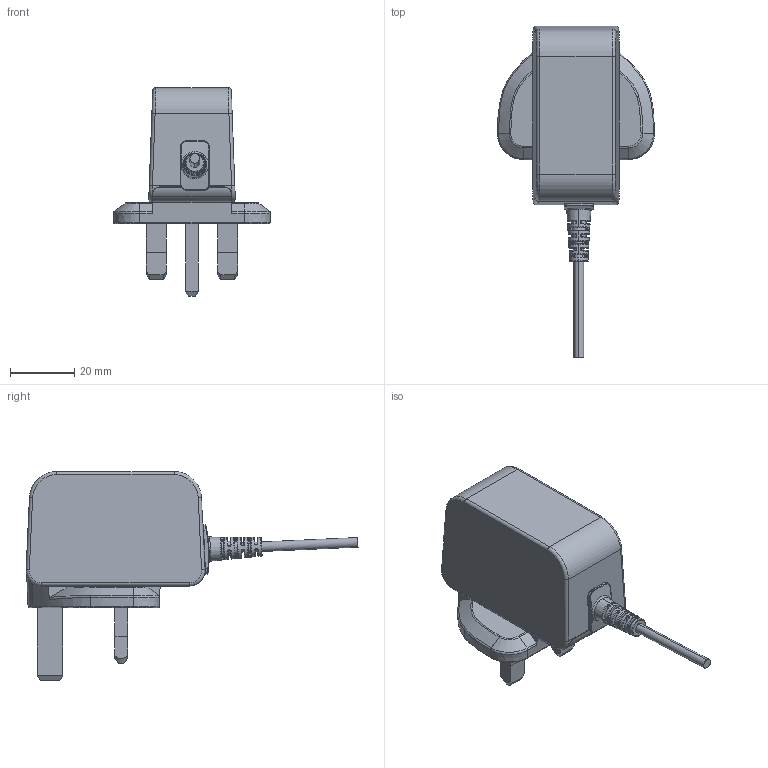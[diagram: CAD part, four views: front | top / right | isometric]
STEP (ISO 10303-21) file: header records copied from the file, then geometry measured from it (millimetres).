
FILE_DESCRIPTION (( 'STEP AP214' ), '1' );
FILE_NAME ('ASSA13B-120150_PR3PXUK3_NOPB.STEP', '2023-04-27T07:29:49', ( '' ), ( '' ), 'SwSTEP 2.0', 'SolidWorks 2022', '' );
FILE_SCHEMA (( 'AUTOMOTIVE_DESIGN' ));
Length unit declared in the file: millimetre
Products named in the file (1): ASSA13B-120150_PR3PXUK3_NOPB
Bounding box: 48.98 x 103.49 x 65.13 mm (x, y, z)
Surface area: 24236.4 mm2 (no closed solid volume)
Topology: 0 solids, 8 shells, 1498 faces, 4237 edges, 2748 vertices
Faces by surface type: plane 805, cylinder 489, bspline 102, torus 66, cone 28, sphere 8
Entity records: 58857 total; most frequent: CARTESIAN_POINT 21619, ORIENTED_EDGE 8472, DIRECTION 5990, EDGE_CURVE 4236, VERTEX_POINT 2748, LINE 2000, VECTOR 2000, AXIS2_PLACEMENT_3D 1995
